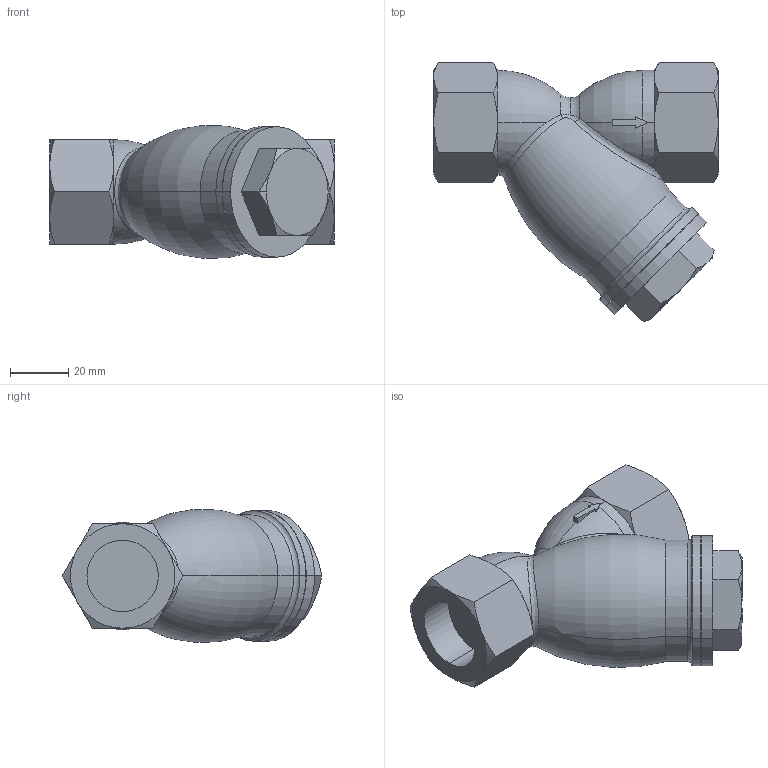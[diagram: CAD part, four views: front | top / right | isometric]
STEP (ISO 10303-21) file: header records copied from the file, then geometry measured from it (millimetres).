
FILE_DESCRIPTION (( 'STEP AP203' ), '1' );
FILE_NAME ('SY-6 20A.STEP', '2026-05-18T02:10:20', ( '' ), ( '' ), 'SwSTEP 2.0', 'SolidWorks 2026', '' );
FILE_SCHEMA (( 'CONFIG_CONTROL_DESIGN' ));
Length unit declared in the file: millimetre
Products named in the file (1): SY-6 20A
Bounding box: 98 x 89.36 x 45.79 mm (x, y, z)
Volume: 164166.8 mm3; surface area: 24297 mm2
Topology: 1 solids, 1 shells, 105 faces, 246 edges, 148 vertices
Faces by surface type: plane 42, cone 32, cylinder 15, torus 11, bspline 5
Entity records: 4261 total; most frequent: CARTESIAN_POINT 1944, ORIENTED_EDGE 492, DIRECTION 433, EDGE_CURVE 246, AXIS2_PLACEMENT_3D 183, VERTEX_POINT 148, EDGE_LOOP 110, FACE_OUTER_BOUND 105
